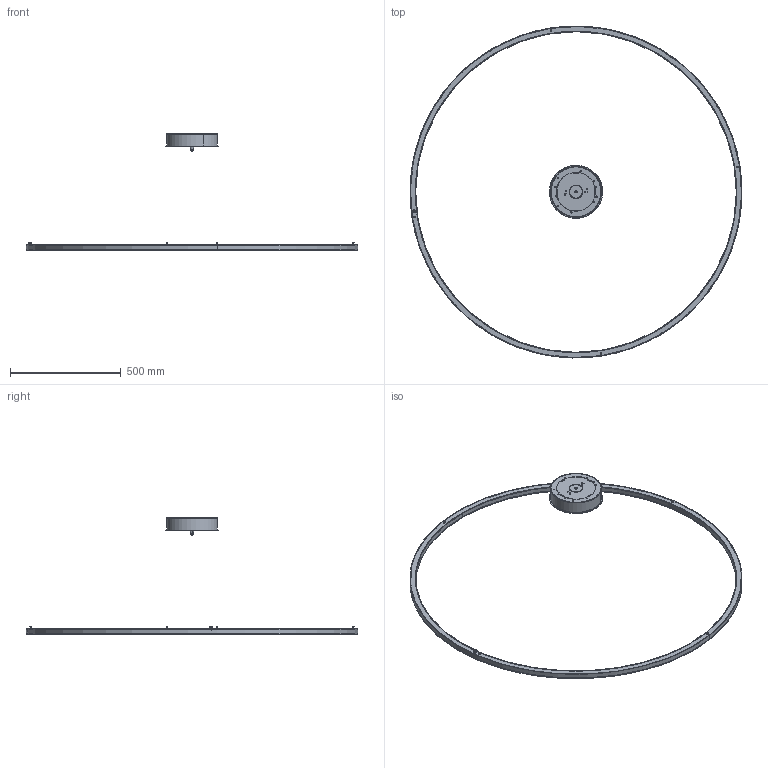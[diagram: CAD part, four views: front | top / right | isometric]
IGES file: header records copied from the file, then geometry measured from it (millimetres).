
Start section: SolidWorks IGES file using analytic representation for surfaces
Global section: file name: W:\FILE_leo_generati smartwork\1-4-20\circus_1500\circus_1500.IGS; native system: SolidWorks 2019; preprocessor: SolidWorks 2019; author: leonardo.cogo; date: 200401.104705; units: millimetre
Bounding box: 1499.65 x 1499.65 x 525.1 mm (x, y, z)
Surface area: 1253204.8 mm2 (no closed solid volume)
Topology: 0 solids, 0 shells, 481 faces, 8760 edges, 8760 vertices
Faces by surface type: revolution 302, bspline 179
